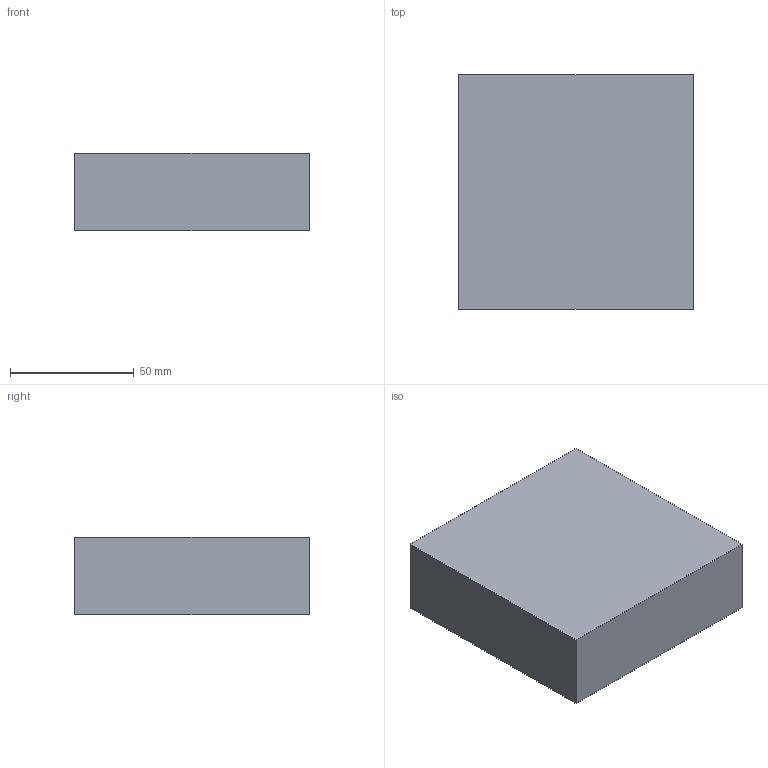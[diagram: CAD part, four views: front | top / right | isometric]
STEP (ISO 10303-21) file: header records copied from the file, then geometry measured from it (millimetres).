
FILE_DESCRIPTION(('Open CASCADE Model'),'2;1');
FILE_NAME('sband_board','2026-08-12T02:42:45',('Author'),('Open CASCADE' ),'Open CASCADE STEP processor 7.9','build123d','Unknown');
FILE_SCHEMA(('AUTOMOTIVE_DESIGN { 1 0 10303 214 1 1 1 1 }'));
Length unit declared in the file: millimetre
Products named in the file (2): sband_board
Assembly tree (1 placements, depth 2):
  sband_board
    sband_board
Bounding box: 95 x 95 x 31.5 mm (x, y, z)
Volume: 284287.5 mm3; surface area: 30020 mm2
Topology: 1 solids, 1 shells, 6 faces, 12 edges, 8 vertices
Faces by surface type: plane 6
Entity records: 340 total; most frequent: CARTESIAN_POINT 52, DIRECTION 52, LINE 36, VECTOR 36, ORIENTED_EDGE 24, PCURVE 24, DEFINITIONAL_REPRESENTATION 24, EDGE_CURVE 12
